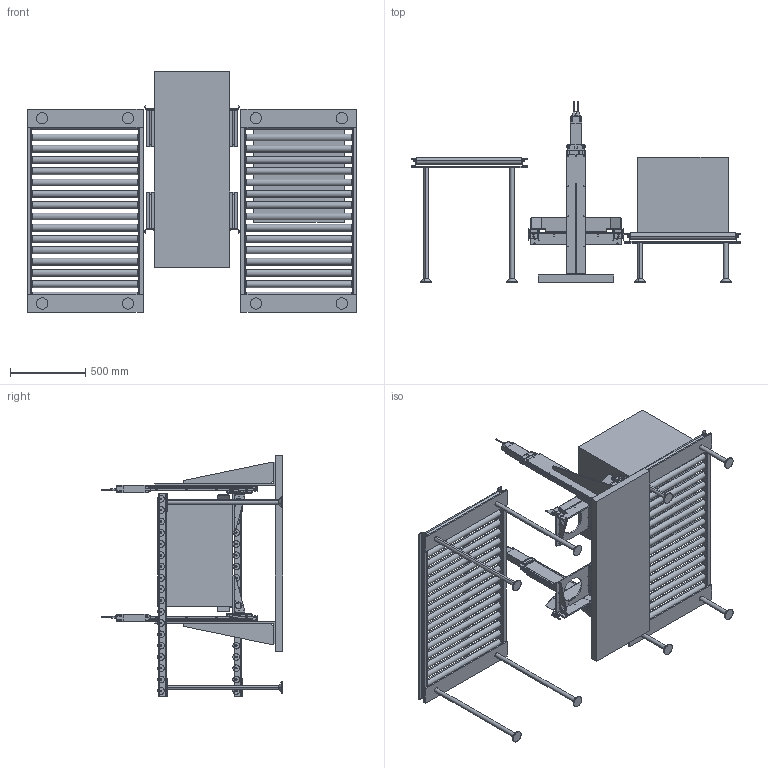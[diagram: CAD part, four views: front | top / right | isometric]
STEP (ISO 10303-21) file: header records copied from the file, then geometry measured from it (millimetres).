
FILE_DESCRIPTION (( 'STEP AP214' ), '1' );
FILE_NAME ('指南書題材ﾓﾃﾞﾙ(2軸垂直同期動作)-2.STEP', '2024-04-24T04:22:34', ( '' ), ( '' ), 'SwSTEP 2.0', 'SolidWorks 2018', '' );
FILE_SCHEMA (( 'AUTOMOTIVE_DESIGN' ));
Length unit declared in the file: millimetre
Products named in the file (23): Copy of _________; ____; EC-WS12-Slider; _____________; 指南書題材ﾓﾃﾞﾙ(2軸垂直同期動作)-2; EC-WS12-500st-Body; Copy of __________; Copy of WS10___________; EC-WS12-B-WA-Motor; Copy of WS12__________; Copy of ________; Copy of _______; Copy of __; EC-Conector; Copy of EX-L211; Copy of __________L700-1; Copy of ____; __________L200-0; Copy of _____________; ______________; Copy of ______________; Copy of ___; Copy of __________L200
Assembly tree (89 placements, depth 3):
  指南書題材ﾓﾃﾞﾙ(2軸垂直同期動作)-2
    EC-WS12-Slider  x2
    EC-Conector  x2
    EC-WS12-B-WA-Motor  x2
    EC-WS12-500st-Body  x2
    Copy of __________L200
      _____________  x2
      ____  x18
      ______________  x2
      __________L200-0  x4
    Copy of _____________  x2
    Copy of ____  x18
    Copy of ______________  x2
    Copy of __________L700-1  x4
    Copy of EX-L211  x8
    Copy of __
    Copy of WS12__________  x2
    Copy of WS10___________  x2
    Copy of ________  x2
    Copy of _______  x6
    Copy of _________  x2
    Copy of ___
    Copy of __________  x4
Bounding box: 2190 x 1205 x 1600 mm (x, y, z)
Volume: 305368394.3 mm3; surface area: 12377738.4 mm2
Topology: 90 solids, 90 shells, 3632 faces, 9086 edges, 5782 vertices
Faces by surface type: plane 1950, cylinder 1408, cone 194, sphere 40, torus 40
Entity records: 50223 total; most frequent: CARTESIAN_POINT 8641, DIRECTION 7562, ORIENTED_EDGE 7222, EDGE_CURVE 3611, AXIS2_PLACEMENT_3D 2587, LINE 2388, VECTOR 2388, VERTEX_POINT 2335
